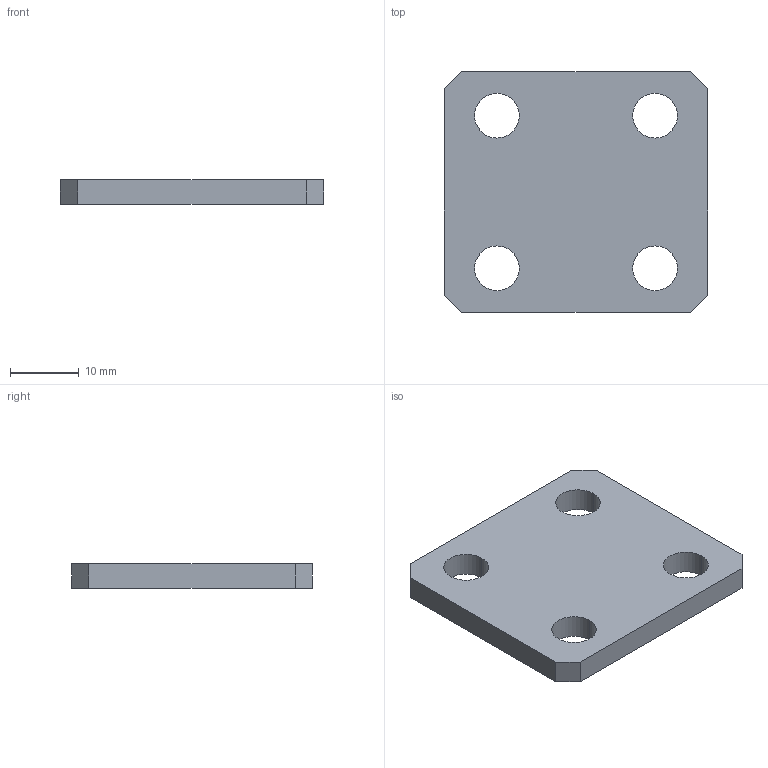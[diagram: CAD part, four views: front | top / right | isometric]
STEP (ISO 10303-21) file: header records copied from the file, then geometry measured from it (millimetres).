
FILE_DESCRIPTION(('CATIA V5 STEP Exchange'),'2;1');
FILE_NAME('D:\姚明阳\1、工装图纸\AGZ122\AGZ122.00_V2\AGZ122.07_V1.stp','2024-12-11T11:37:23+00:00',('none'),('none'),'CATIA Version 5 Release 20 GA (IN-10)','CATIA V5 STEP AP203','none');
FILE_SCHEMA(('CONFIG_CONTROL_DESIGN'));
Length unit declared in the file: millimetre
Products named in the file (1): AGZ122.07_V1
Bounding box: 38.3 x 35 x 3.5 mm (x, y, z)
Volume: 4183.4 mm3; surface area: 3169 mm2
Topology: 1 solids, 1 shells, 18 faces, 48 edges, 32 vertices
Faces by surface type: plane 10, cylinder 8
Entity records: 590 total; most frequent: ORIENTED_EDGE 96, CARTESIAN_POINT 95, DIRECTION 76, EDGE_CURVE 48, VECTOR 32, LINE 32, VERTEX_POINT 32, AXIS2_PLACEMENT_3D 31
